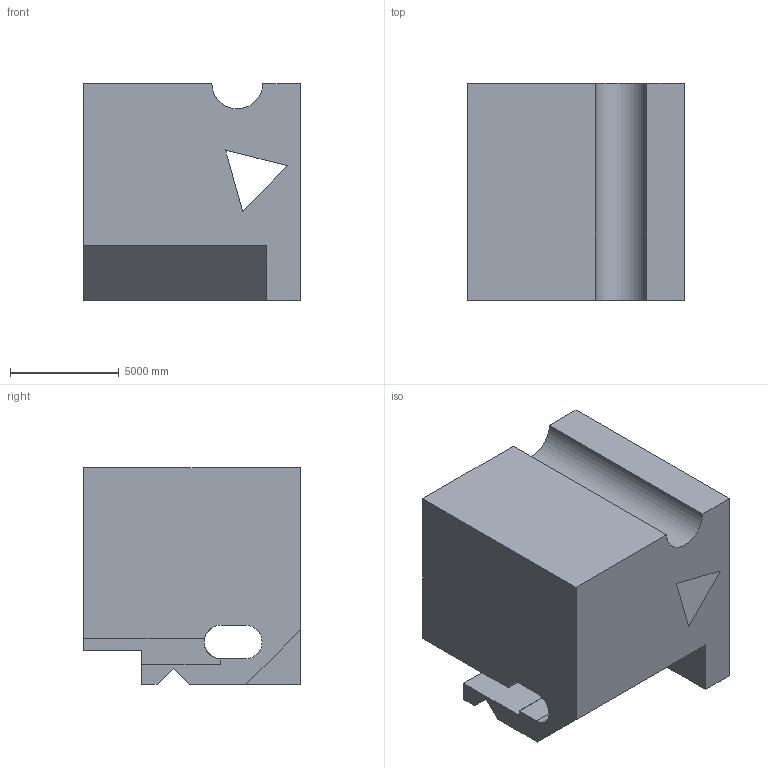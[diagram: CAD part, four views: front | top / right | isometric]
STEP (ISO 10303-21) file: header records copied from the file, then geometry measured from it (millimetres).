
FILE_DESCRIPTION (( 'STEP AP203' ), '1' );
FILE_NAME ('641.STEP', '2022-07-29T12:15:20', ( 'user' ), ( '' ), 'SwSTEP 2.0', 'SolidWorks 2021', '' );
FILE_SCHEMA (( 'CONFIG_CONTROL_DESIGN' ));
Length unit declared in the file: centimetre
Products named in the file (1): 641
Bounding box: 10000 x 10000 x 10000 mm (x, y, z)
Volume: 815237657848.4 mm3; surface area: 749611792.9 mm2
Topology: 1 solids, 1 shells, 26 faces, 75 edges, 50 vertices
Faces by surface type: plane 23, cylinder 3
Entity records: 932 total; most frequent: CARTESIAN_POINT 152, ORIENTED_EDGE 150, DIRECTION 137, EDGE_CURVE 75, LINE 67, VECTOR 67, VERTEX_POINT 50, AXIS2_PLACEMENT_3D 35
